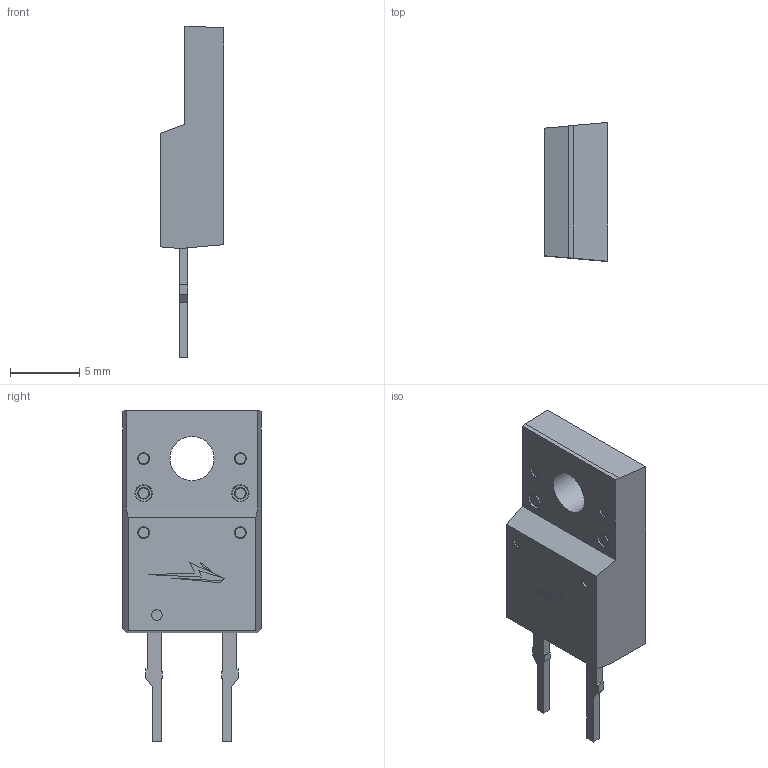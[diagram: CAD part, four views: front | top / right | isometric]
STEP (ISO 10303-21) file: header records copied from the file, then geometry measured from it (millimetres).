
FILE_DESCRIPTION(/* description */ (''),/* implementation_level */ '2;1');
FILE_NAME(/* name */ 'H:\_UPVERTER\Upverter 3D models\Wolfspeed\C3D06060F\Wolfspeed C3D06060F.stp',/* time_stamp */ '2021-11-04T02:28:58-04:00',/* author */ ('rabri'),/* organization */ (''),/* preprocessor_version */ 'ST-DEVELOPER v18',/* originating_system */ 'Autodesk Inventor 2020',/* authorisation */ '');
FILE_SCHEMA (('AUTOMOTIVE_DESIGN { 1 0 10303 214 3 1 1 }'));
Length unit declared in the file: millimetre
Products named in the file (4): Wolfspeed C3D06060F; body; terminal; logo
Assembly tree (3 placements, depth 2):
  Wolfspeed C3D06060F
    body
    terminal
    logo
Bounding box: 4.62 x 10.03 x 23.97 mm (x, y, z)
Volume: 569.5 mm3; surface area: 583.9 mm2
Topology: 6 solids, 6 shells, 91 faces, 221 edges, 150 vertices
Faces by surface type: plane 65, torus 16, cylinder 10
Full cylindrical faces by diameter (mm): 0.769 x1, 0.8 x6, 1.2 x2, 3.19 x1
Entity records: 2866 total; most frequent: DIRECTION 493, CARTESIAN_POINT 469, ORIENTED_EDGE 442, EDGE_CURVE 221, AXIS2_PLACEMENT_3D 174, VERTEX_POINT 150, LINE 145, VECTOR 145
